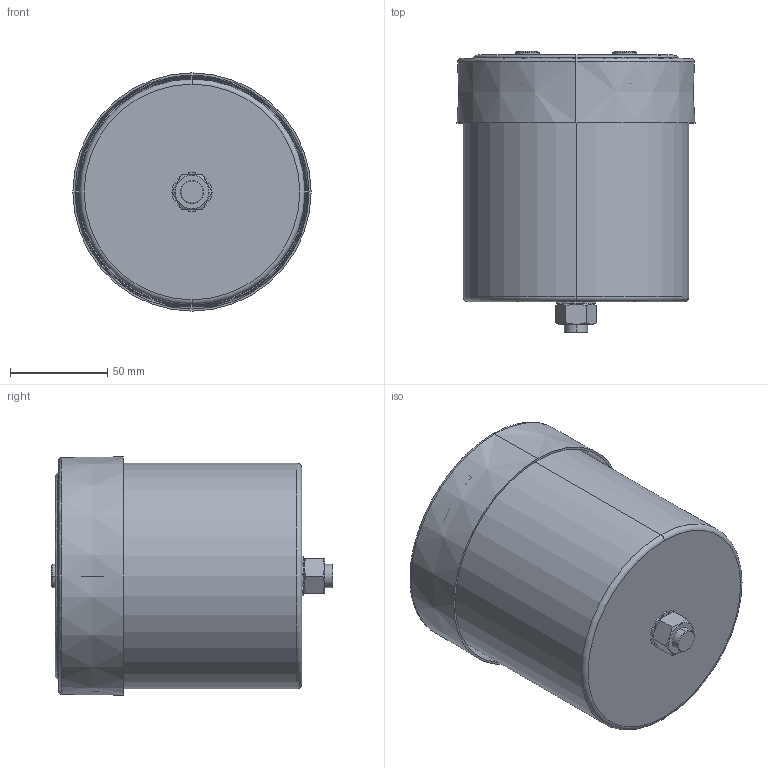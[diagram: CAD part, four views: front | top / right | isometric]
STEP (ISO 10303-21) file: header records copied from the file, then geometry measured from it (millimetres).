
FILE_DESCRIPTION (( 'STEP AP203' ), '1' );
FILE_NAME ('B25680Cx_116x127_129.STEP', '2021-09-13T08:45:30', ( '' ), ( '' ), 'SwSTEP 2.0', 'SolidWorks 2017', '' );
FILE_SCHEMA (( 'CONFIG_CONTROL_DESIGN' ));
Length unit declared in the file: millimetre
Products named in the file (1): B25680Cx_116x127_129
Bounding box: 122.58 x 145 x 122.58 mm (x, y, z)
Volume: 143045.8 mm3; surface area: 208705.5 mm2
Topology: 1 solids, 7 shells, 577 faces, 1430 edges, 903 vertices
Faces by surface type: plane 209, cylinder 168, bspline 83, cone 75, torus 42
Entity records: 20405 total; most frequent: CARTESIAN_POINT 6993, ORIENTED_EDGE 2834, DIRECTION 2774, EDGE_CURVE 1417, AXIS2_PLACEMENT_3D 1124, VERTEX_POINT 903, EDGE_LOOP 640, CIRCLE 629
